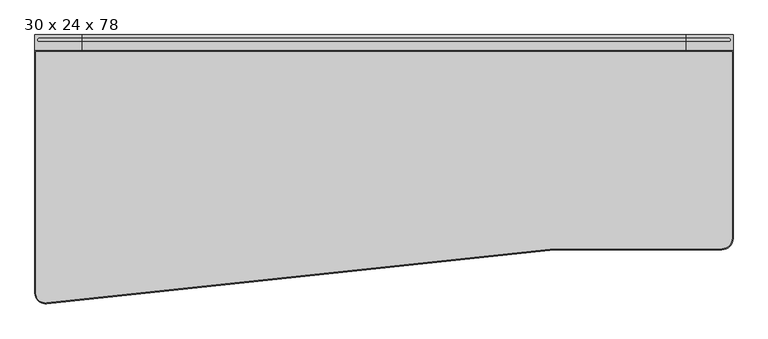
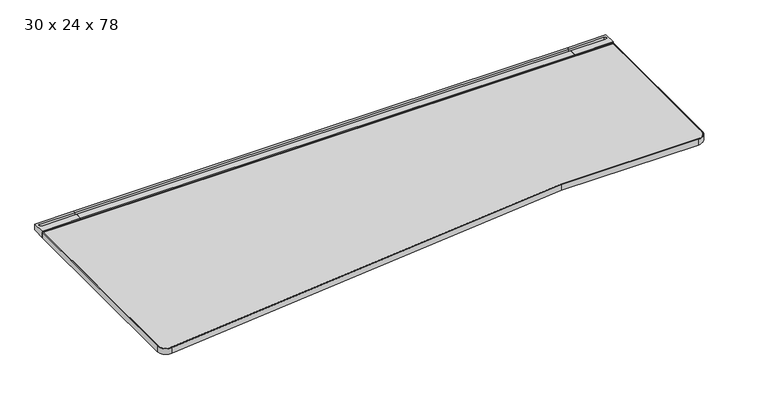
"""IFC4 building model written with IfcOpenShell, lengths in millimetres: furniture geometry, Steelcase - C Scape - Desking - Left Hand Transition : 30 x 24 x 78."""

from ifc_helpers import new_model, si_unit, point, frame, frame_2d, origin, place, context, project, spatial, polyline, circle_curve, trimmed, segment, composite_curve, outline, extrude, faceted_brep, source, transform, mapped, element, save
from ifc_brep_helpers import plane_surface, cylinder_surface, revolved_surface, advanced_brep


def furniture_30_x_24_x_78_94c20a30(model_context):
    return source(origin(), model_context, "Body", "SolidModel", [
        advanced_brep(
        [(134.6072876, -45.3135132, 703.3768), (134.6072876, -4.0331902, 703.3768), (134.6072876, -3.2278472, 705.1038636), (134.6072876, 0.0, 705.1038636), (134.6072876, 0.0, 725.932), (134.6072876, -8.5111084, 725.932), (134.6072876, -8.5111084, 713.486), (134.6072876, -19.3290527, 713.486), (134.6072876, -19.3290527, 725.932), (134.6072876, -42.7750923, 725.932), (134.6072876, -42.7750923, 722.4268341), (134.6072876, -45.3135132, 722.4268341), (1.5875, -45.3135132, 703.3768), (1.5875, -45.3135132, 722.4268341), (1.5875, -42.7750923, 722.4268341), (1.5875, -42.7750923, 725.932), (1.5875, 0.0, 725.932), (1.5875, 0.0, 705.1038636), (1.5875, -3.2278472, 705.1038636), (1.5875, -4.0331902, 703.3768), (13.3495728, -19.3290527, 725.932), (13.3495728, -8.5111084, 725.932), (13.3495728, -8.5111084, 713.486), (13.3495728, -19.3290527, 713.486)],
        [
            (0, 1),
            (1, 2),
            (2, 3),
            (3, 4),
            (4, 5),
            (5, 6),
            (6, 7),
            (7, 8),
            (8, 9),
            (9, 10),
            (10, 11),
            (11, 0),
            (12, 13),
            (13, 14),
            (14, 15),
            (15, 16),
            (16, 17),
            (17, 18),
            (18, 19),
            (19, 12),
            (0, 12),
            (19, 1),
            (18, 2),
            (17, 3),
            (16, 4),
            (15, 9),
            (8, 20),
            (20, 21, circle_curve(frame((13.3495728, -13.9200806, 725.932), z_axis=(0.0, 0.0, -1.0), x_axis=(1.0, 0.0, 0.0)), 5.4089722)),
            (21, 5),
            (14, 10),
            (13, 11),
            (6, 22),
            (22, 23, circle_curve(frame((13.3495728, -13.9200806, 713.486), z_axis=(0.0, 0.0, 1.0), x_axis=(1.0, 0.0, 0.0)), 5.4089722)),
            (23, 7),
            (21, 22),
            (20, 23),
        ],
        [
            plane_surface(frame((134.6072876, -45.3135132, 703.3768), z_axis=(1.0, 0.0, 0.0), x_axis=(0.0, 1.0, 0.0))),
            plane_surface(frame((1.5875, -45.3135132, 703.3768), z_axis=(-1.0, 0.0, 0.0), x_axis=(0.0, -1.0, 0.0))),
            plane_surface(frame((134.6072876, -45.3135132, 703.3768), z_axis=(0.0, 0.0, -1.0), x_axis=(-1.0, 0.0, 0.0))),
            plane_surface(frame((134.6072876, -4.0331902, 703.3768), z_axis=(0.0, 0.9063077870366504, -0.4226182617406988), x_axis=(-1.0, 0.0, 0.0))),
            plane_surface(frame((134.6072876, -3.2278472, 705.1038636), z_axis=(0.0, 0.0, -1.0), x_axis=(-1.0, 0.0, 0.0))),
            plane_surface(frame((134.6072876, 0.0, 705.1038636), z_axis=(0.0, 1.0, 0.0), x_axis=(-1.0, 0.0, 0.0))),
            plane_surface(frame((134.6072876, 0.0, 725.932), z_axis=(0.0, 0.0, 1.0), x_axis=(-1.0, 0.0, 0.0))),
            plane_surface(frame((134.6072876, -42.7750923, 725.932), z_axis=(0.0, -1.0, 0.0), x_axis=(-1.0, 0.0, 0.0))),
            plane_surface(frame((134.6072876, -42.7750923, 722.4268341), z_axis=(0.0, 0.0, 1.0), x_axis=(-1.0, 0.0, 0.0))),
            plane_surface(frame((134.6072876, -45.3135132, 722.4268341), z_axis=(0.0, -1.0, 0.0), x_axis=(-1.0, 0.0, 0.0))),
            plane_surface(frame((13.3495728, -8.5111084, 713.486), z_axis=(0.0, 0.0, 1.0), x_axis=(1.0, 0.0, 0.0))),
            plane_surface(frame((134.6072876, -8.5111084, 731.2180541), z_axis=(0.0, -1.0, 0.0), x_axis=(0.0, 0.0, -1.0))),
            revolved_surface(polyline([(18.758545, -13.9200806, 725.932), (18.758545, -13.9200806, 713.486)]), (13.3495728, -13.9200806, 713.486), (0.0, 0.0, 1.0)),
            plane_surface(frame((13.3495728, -19.3290527, 731.2180541), z_axis=(0.0, 1.0, 0.0), x_axis=(0.0, 0.0, -1.0))),
        ],
        [
            (0, [[1, 2, 3, 4, 5, 6, 7, 8, 9, 10, 11, 12]]),
            (1, [[13, 14, 15, 16, 17, 18, 19, 20]]),
            (2, [[-1, 21, -20, 22]]),
            (3, [[-2, -22, -19, 23]]),
            (4, [[-3, -23, -18, 24]]),
            (5, [[-4, -24, -17, 25]]),
            (6, [[-16, 26, -9, 27, 28, 29, -5, -25]]),
            (7, [[-10, -26, -15, 30]]),
            (8, [[-11, -30, -14, 31]]),
            (9, [[-12, -31, -13, -21]]),
            (10, [[32, 33, 34, -7]]),
            (11, [[-32, -6, -29, 35]]),
            (12, [[-33, -35, -28, 36]]),
            (13, [[-34, -36, -27, -8]]),
        ],
    ),
        faceted_brep([(20.6382632, -565.0752923, 700.7093833), (34.9133728, -565.0752923, 693.4200291), (116.3525879, -565.0752923, 693.4200291), (118.9731301, -565.0752923, 679.3263935), (134.6072876, -565.0752923, 679.3263935), (134.6072876, -565.0752923, 703.3768), (20.6382632, -565.0752923, 703.3768), (20.6382632, -4.0331902, 700.7093833), (20.6382632, -4.0331902, 703.3768), (134.6072876, -4.0331902, 703.3768), (134.6072876, -4.0331902, 629.3866), (128.2588347, -4.0331902, 629.3866), (116.3525879, -4.0331902, 693.4200291), (34.9133728, -4.0331902, 693.4200291), (128.2588347, -364.1172546, 629.3866), (121.1384051, -376.5599397, 667.6812472), (134.6072876, -364.1172546, 629.3866), (134.6072876, -376.5599397, 667.6812472)], [[[0, 1, 2, 3, 4, 5, 6]], [[7, 8, 9, 10, 11, 12, 13]], [[1, 0, 7, 13]], [[2, 1, 13, 12]], [[12, 11, 14, 15, 3, 2]], [[11, 10, 16, 14]], [[10, 9, 5, 4, 17, 16]], [[6, 5, 9, 8]], [[0, 6, 8, 7]], [[15, 17, 4, 3]], [[17, 15, 14, 16]]]),
        extrude(outline(composite_curve([segment(polyline([(-293.5216187, 657.3775839), (-559.0022133, 680.1371551)]), True, "CONTINUOUS"), segment(trimmed(circle_curve(frame_2d((-558.7581271, 682.9843154)), 2.8576039), [point((-559.0022133, 680.1371551))], [point((-561.5383043, 682.3236226))], False, "CARTESIAN"), True, "CONTINUOUS"), segment(polyline([(-561.5383043, 682.3236226), (-566.0887542, 701.4717905), (-557.8334441, 701.4717905), (-557.8334441, 703.3768), (-442.6683806, 703.3768), (-442.6683806, 696.3917953), (-318.2108611, 696.3917953), (-318.2108611, 703.3768), (-293.5216187, 703.3768), (-293.5216187, 657.3775839)]), True, "CONTINUOUS")], self_intersect=False)), frame((954.024, 0.0, 0.0), z_axis=(1.0, 0.0, 0.0), x_axis=(0.0, 1.0, 0.0)), (0.0, 0.0, 1.0), 73.152),
        advanced_brep(
        [(1846.5927124, -45.3135132, 703.3768), (1846.5927124, -45.3135132, 722.4268341), (1846.5927124, -42.7750923, 722.4268341), (1846.5927124, -42.7750923, 725.932), (1846.5927124, -19.3290527, 725.932), (1846.5927124, -19.3290527, 713.486), (1846.5927124, -8.5111084, 713.486), (1846.5927124, -8.5111084, 725.932), (1846.5927124, 0.0, 725.932), (1846.5927124, 0.0, 705.1038636), (1846.5927124, -3.2278472, 705.1038636), (1846.5927124, -4.0331902, 703.3768), (1979.6125, -45.3135132, 703.3768), (1979.6125, -4.0331902, 703.3768), (1979.6125, -3.2278472, 705.1038636), (1979.6125, 0.0, 705.1038636), (1979.6125, 0.0, 725.932), (1979.6125, -42.7750923, 725.932), (1979.6125, -42.7750923, 722.4268341), (1979.6125, -45.3135132, 722.4268341), (1967.8504272, -8.5111084, 725.932), (1967.8504272, -19.3290527, 725.932), (1967.8504272, -19.3290527, 713.486), (1967.8504272, -8.5111084, 713.486)],
        [
            (0, 1),
            (1, 2),
            (2, 3),
            (3, 4),
            (4, 5),
            (5, 6),
            (6, 7),
            (7, 8),
            (8, 9),
            (9, 10),
            (10, 11),
            (11, 0),
            (12, 13),
            (13, 14),
            (14, 15),
            (15, 16),
            (16, 17),
            (17, 18),
            (18, 19),
            (19, 12),
            (11, 13),
            (12, 0),
            (10, 14),
            (9, 15),
            (8, 16),
            (7, 20),
            (20, 21, circle_curve(frame((1967.8504272, -13.9200806, 725.932), z_axis=(0.0, 0.0, -1.0), x_axis=(-1.0, 0.0, 0.0)), 5.4089722)),
            (21, 4),
            (3, 17),
            (2, 18),
            (1, 19),
            (5, 22),
            (22, 23, circle_curve(frame((1967.8504272, -13.9200806, 713.486), z_axis=(0.0, 0.0, 1.0), x_axis=(-1.0, 0.0, 0.0)), 5.4089722)),
            (23, 6),
            (23, 20),
            (22, 21),
        ],
        [
            plane_surface(frame((1846.5927124, -45.3135132, 703.3768), z_axis=(-1.0, 0.0, 0.0), x_axis=(0.0, 1.0, 0.0))),
            plane_surface(frame((1979.6125, -45.3135132, 703.3768), z_axis=(1.0, 0.0, 0.0), x_axis=(0.0, -1.0, 0.0))),
            plane_surface(frame((1846.5927124, -45.3135132, 703.3768), z_axis=(0.0, 0.0, -1.0), x_axis=(1.0, 0.0, 0.0))),
            plane_surface(frame((1846.5927124, -4.0331902, 703.3768), z_axis=(0.0, 0.9063077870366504, -0.4226182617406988), x_axis=(1.0, 0.0, 0.0))),
            plane_surface(frame((1846.5927124, -3.2278472, 705.1038636), z_axis=(0.0, 0.0, -1.0), x_axis=(1.0, 0.0, 0.0))),
            plane_surface(frame((1846.5927124, 0.0, 705.1038636), z_axis=(0.0, 1.0, 0.0), x_axis=(1.0, 0.0, 0.0))),
            plane_surface(frame((1846.5927124, 0.0, 725.932), z_axis=(0.0, 0.0, 1.0), x_axis=(1.0, 0.0, 0.0))),
            plane_surface(frame((1846.5927124, -42.7750923, 725.932), z_axis=(0.0, -1.0, 0.0), x_axis=(1.0, 0.0, 0.0))),
            plane_surface(frame((1846.5927124, -42.7750923, 722.4268341), z_axis=(0.0, 0.0, 1.0), x_axis=(1.0, 0.0, 0.0))),
            plane_surface(frame((1846.5927124, -45.3135132, 722.4268341), z_axis=(0.0, -1.0, 0.0), x_axis=(1.0, 0.0, 0.0))),
            plane_surface(frame((1967.8504272, -8.5111084, 713.486), z_axis=(0.0, 0.0, 1.0), x_axis=(-1.0, 0.0, 0.0))),
            plane_surface(frame((1846.5927124, -8.5111084, 731.2180541), z_axis=(0.0, -1.0, 0.0), x_axis=(0.0, 0.0, -1.0))),
            revolved_surface(polyline([(1962.441455, -13.9200806, 725.932), (1962.441455, -13.9200806, 713.486)]), (1967.8504272, -13.9200806, 713.486), (0.0, 0.0, 1.0)),
            plane_surface(frame((1967.8504272, -19.3290527, 731.2180541), z_axis=(0.0, 1.0, 0.0), x_axis=(0.0, 0.0, -1.0))),
        ],
        [
            (0, [[1, 2, 3, 4, 5, 6, 7, 8, 9, 10, 11, 12]]),
            (1, [[13, 14, 15, 16, 17, 18, 19, 20]]),
            (2, [[21, -13, 22, -12]]),
            (3, [[23, -14, -21, -11]]),
            (4, [[24, -15, -23, -10]]),
            (5, [[25, -16, -24, -9]]),
            (6, [[-25, -8, 26, 27, 28, -4, 29, -17]]),
            (7, [[30, -18, -29, -3]]),
            (8, [[31, -19, -30, -2]]),
            (9, [[-22, -20, -31, -1]]),
            (10, [[-6, 32, 33, 34]]),
            (11, [[35, -26, -7, -34]]),
            (12, [[36, -27, -35, -33]]),
            (13, [[-5, -28, -36, -32]]),
        ],
    ),
        faceted_brep([(1960.5617368, -565.0752923, 700.7093833), (1960.5617368, -565.0752923, 703.3768), (1846.5927124, -565.0752923, 703.3768), (1846.5927124, -565.0752923, 679.3263935), (1862.2268699, -565.0752923, 679.3263935), (1864.8474121, -565.0752923, 693.4200291), (1946.2866272, -565.0752923, 693.4200291), (1960.5617368, -4.0331902, 700.7093833), (1946.2866272, -4.0331902, 693.4200291), (1864.8474121, -4.0331902, 693.4200291), (1852.9411653, -4.0331902, 629.3866), (1846.5927124, -4.0331902, 629.3866), (1846.5927124, -4.0331902, 703.3768), (1960.5617368, -4.0331902, 703.3768), (1860.0615949, -376.5599397, 667.6812472), (1852.9411653, -364.1172546, 629.3866), (1846.5927124, -364.1172546, 629.3866), (1846.5927124, -376.5599397, 667.6812472)], [[[0, 1, 2, 3, 4, 5, 6]], [[7, 8, 9, 10, 11, 12, 13]], [[6, 8, 7, 0]], [[5, 9, 8, 6]], [[9, 5, 4, 14, 15, 10]], [[10, 15, 16, 11]], [[11, 16, 17, 3, 2, 12]], [[1, 13, 12, 2]], [[0, 7, 13, 1]], [[14, 4, 3, 17]], [[17, 16, 15, 14]]]),
        extrude(outline(polyline([(-8.5111084, 725.932), (0.0, 725.932), (0.0, 705.1038636), (-3.2278472, 705.1038636), (-4.0331902, 703.3768), (-45.3135132, 703.3768), (-45.3135132, 722.4268341), (-42.7750923, 722.4268341), (-42.7750923, 725.932), (-19.3290527, 725.932), (-19.3290527, 713.486), (-8.5111084, 713.486), (-8.5111084, 725.932)])), frame((134.6072876, 0.0, 0.0), z_axis=(1.0, 0.0, 0.0), x_axis=(0.0, 1.0, 0.0)), (0.0, 0.0, 1.0), 1711.9854248),
        extrude(outline(polyline([(1846.5927124, -4.0331902), (1846.5927124, -293.5216187), (134.6072876, -293.5216187), (134.6072876, -4.0331902), (1846.5927124, -4.0331902)])), frame((0.0, 0.0, 629.3866), z_axis=(0.0, 0.0, 1.0), x_axis=(1.0, 0.0, 0.0)), (0.0, 0.0, 1.0), 73.9902),
        advanced_brep(
        [(1976.5645, -48.3660689, 723.9), (4.6355, -48.3660689, 723.9), (4.6355, -734.677348, 723.9), (33.9511745, -759.7737122, 723.9), (1473.1997595, -606.5490234, 723.9), (1947.8625, -606.5490234, 723.9), (1976.5615234, -577.85, 723.9), (1976.5645, -48.3660689, 703.3768), (1976.5645, -577.85, 703.3768), (1947.8625, -606.5490234, 703.3768), (1473.1997595, -606.5490234, 703.3768), (33.9511745, -759.7737122, 703.3768), (4.6355, -734.677348, 703.3768), (4.6355, -48.3660689, 703.3768)],
        [
            (0, 1),
            (1, 2),
            (2, 3, circle_curve(frame((30.0355, -734.677348, 723.9), z_axis=(0.0, 0.0, 1.0), x_axis=(-1.0, 0.0, 0.0)), 25.4)),
            (3, 4),
            (4, 5),
            (5, 6, circle_curve(frame((1947.8625, -577.85, 723.9), z_axis=(0.0, 0.0, 1.0), x_axis=(-1.0, 0.0, 0.0)), 28.6990234)),
            (6, 0),
            (7, 8),
            (8, 9, circle_curve(frame((1947.8625, -577.85, 703.3768), z_axis=(0.0, 0.0, -1.0), x_axis=(-1.0, 0.0, 0.0)), 28.6990234)),
            (9, 10),
            (10, 11),
            (11, 12, circle_curve(frame((30.0355, -734.677348, 703.3768), z_axis=(0.0, 0.0, -1.0), x_axis=(-1.0, 0.0, 0.0)), 25.4)),
            (12, 13),
            (13, 7),
            (0, 7),
            (13, 1),
            (12, 2),
            (11, 3),
            (10, 4),
            (9, 5),
            (8, 6),
        ],
        [
            plane_surface(frame((4.6355, -48.3660689, 723.9), z_axis=(0.0, 0.0, 1.0), x_axis=(-1.0, 0.0, 0.0))),
            plane_surface(frame((4.6355, -48.3660689, 703.3768), z_axis=(0.0, 0.0, -1.0), x_axis=(1.0, 0.0, 0.0))),
            plane_surface(frame((1976.5645, -48.3660689, 723.9), z_axis=(0.0, 1.0, 0.0), x_axis=(0.0, 0.0, -1.0))),
            plane_surface(frame((4.6355, -48.3660689, 723.9), z_axis=(-1.0, 0.0, 0.0), x_axis=(0.0, 0.0, -1.0))),
            cylinder_surface(frame((30.0355, -734.677348, 703.3768), z_axis=(0.0, 0.0, 1.0), x_axis=(-1.0, 0.0, 0.0)), 25.4),
            plane_surface(frame((33.9511745, -759.7737122, 723.9), z_axis=(0.10586334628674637, -0.9943806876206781, 0.0), x_axis=(0.0, 0.0, -1.0))),
            plane_surface(frame((1473.1997595, -606.5490234, 723.9), z_axis=(0.0, -1.0, 0.0), x_axis=(0.0, 0.0, -1.0))),
            cylinder_surface(frame((1947.8625, -577.85, 703.3768), z_axis=(0.0, 0.0, 1.0), x_axis=(-1.0, 0.0, 0.0)), 28.6990234),
            plane_surface(frame((1976.5645, -577.85, 723.9), z_axis=(1.0, 0.0, 0.0), x_axis=(0.0, 0.0, -1.0))),
        ],
        [
            (0, [[1, 2, 3, 4, 5, 6, 7]]),
            (1, [[8, 9, 10, 11, 12, 13, 14]]),
            (2, [[-1, 15, -14, 16]]),
            (3, [[-2, -16, -13, 17]]),
            (4, [[-3, -17, -12, 18]]),
            (5, [[-4, -18, -11, 19]]),
            (6, [[-5, -19, -10, 20]]),
            (7, [[-6, -20, -9, 21]]),
            (8, [[-7, -21, -8, -15]]),
        ],
    ),
        advanced_brep(
        [(4.6384766, -48.3660689, 703.3768), (4.6384766, -48.3660689, 723.9), (4.6384766, -733.2875177, 723.9), (4.6384766, -733.2875177, 703.3768), (1.5875, -45.3150923, 723.9), (1.5875, -45.3150923, 703.3768), (1.5875, -733.2875177, 703.3768), (1.5875, -733.2875177, 723.9), (35.2904734, -759.5278717, 703.3768), (35.2904734, -759.5278717, 723.9), (35.7608132, -762.5423763, 723.9), (35.7608132, -762.5423763, 703.3768), (1473.0381461, -606.5490234, 723.9), (1473.0381461, -606.5490234, 703.3768), (1473.2, -609.6, 703.3768), (1979.6125, -45.3150923, 703.3768), (1979.6125, -577.85, 703.3768), (1947.8625, -609.6, 703.3768), (1947.8625, -606.5490234, 703.3768), (1976.5615234, -577.85, 703.3768), (1976.5615234, -48.3660689, 703.3768), (1473.2, -609.6, 723.9), (1947.8625, -609.6, 723.9), (1979.6125, -577.85, 723.9), (1979.6125, -45.3150923, 723.9), (1976.5615234, -48.3660689, 723.9), (1976.5615234, -577.85, 723.9), (1947.8625, -606.5490234, 723.9)],
        [
            (0, 1),
            (1, 2),
            (2, 3),
            (3, 0),
            (4, 5),
            (5, 6),
            (6, 7),
            (7, 4),
            (8, 3, circle_curve(frame((31.1963073, -733.2875177, 703.3768), z_axis=(0.0, 0.0, -1.0), x_axis=(-1.0, 0.0, 0.0)), 26.5578307)),
            (2, 9, circle_curve(frame((31.1963073, -733.2875177, 723.9), z_axis=(0.0, 0.0, 1.0), x_axis=(-1.0, 0.0, 0.0)), 26.5578307)),
            (9, 8),
            (10, 7, circle_curve(frame((31.1963073, -733.2875177, 723.9), z_axis=(0.0, 0.0, -1.0), x_axis=(-1.0, 0.0, 0.0)), 29.6088073)),
            (6, 11, circle_curve(frame((31.1963073, -733.2875177, 703.3768), z_axis=(0.0, 0.0, 1.0), x_axis=(-1.0, 0.0, 0.0)), 29.6088073)),
            (11, 10),
            (9, 12),
            (12, 13),
            (13, 8),
            (14, 11),
            (5, 15),
            (15, 16),
            (16, 17, circle_curve(frame((1947.8625, -577.85, 703.3768), z_axis=(0.0, 0.0, -1.0), x_axis=(0.0, -1.0, 0.0)), 31.75)),
            (17, 14),
            (13, 18),
            (18, 19, circle_curve(frame((1947.8625, -577.85, 703.3768), z_axis=(0.0, 0.0, 1.0), x_axis=(0.0, -1.0, 0.0)), 28.6990234)),
            (19, 20),
            (20, 0),
            (14, 21),
            (21, 10),
            (21, 22),
            (22, 23, circle_curve(frame((1947.8625, -577.85, 723.9), z_axis=(0.0, 0.0, 1.0), x_axis=(0.0, -1.0, 0.0)), 31.75)),
            (23, 24),
            (24, 4),
            (1, 25),
            (25, 26),
            (26, 27, circle_curve(frame((1947.8625, -577.85, 723.9), z_axis=(0.0, 0.0, -1.0), x_axis=(0.0, -1.0, 0.0)), 28.6990234)),
            (27, 12),
            (27, 18),
            (17, 22),
            (26, 19),
            (16, 23),
            (25, 20),
            (15, 24),
        ],
        [
            plane_surface(frame((4.6384766, -48.3660689, 723.9), z_axis=(1.0, 0.0, 0.0), x_axis=(0.0, -1.0, 0.0))),
            plane_surface(frame((1.5875, -45.3150923, 703.3768), z_axis=(-1.0, 0.0, 0.0), x_axis=(0.0, -1.0, 0.0))),
            revolved_surface(polyline([(4.638476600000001, -733.2875177, 723.9), (4.638476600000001, -733.2875177, 703.3768)]), (31.1963073, -733.2875177, 0.0), (0.0, 0.0, 1.0)),
            cylinder_surface(frame((31.1963073, -733.2875177, 0.0), z_axis=(0.0, 0.0, 1.0), x_axis=(-1.0, 0.0, 0.0)), 29.6088073),
            plane_surface(frame((35.2899134, -759.524282, 723.9), z_axis=(-0.10580200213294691, 0.9943872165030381, 0.0), x_axis=(0.9943872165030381, 0.10580200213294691, 0.0))),
            plane_surface(frame((35.2899134, -759.524282, 703.3768), z_axis=(0.0, 0.0, -1.0), x_axis=(0.9943872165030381, 0.10580200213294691, 0.0))),
            plane_surface(frame((35.7608132, -762.5423763, 703.3768), z_axis=(0.10580200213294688, -0.9943872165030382, 0.0), x_axis=(0.9943872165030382, 0.10580200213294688, 0.0))),
            plane_surface(frame((35.7608132, -762.5423763, 723.9), z_axis=(0.0, 0.0, 1.0000000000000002), x_axis=(0.9943872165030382, 0.10580200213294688, 0.0))),
            plane_surface(frame((1473.0381461, -606.5490234, 723.9), z_axis=(0.0, 1.0, 0.0), x_axis=(1.0, 0.0, 0.0))),
            plane_surface(frame((1473.2, -609.6, 703.3768), z_axis=(0.0, -1.0, 0.0), x_axis=(1.0, 0.0, 0.0))),
            revolved_surface(polyline([(1947.8625, -606.5490234, 723.9), (1947.8625, -606.5490234, 703.3768)]), (1947.8625, -577.85, 0.0), (0.0, 0.0, 1.0)),
            cylinder_surface(frame((1947.8625, -577.85, 0.0), z_axis=(0.0, 0.0, 1.0), x_axis=(0.0, -1.0, 0.0)), 31.75),
            plane_surface(frame((1976.5615234, -577.85, 723.9), z_axis=(-1.0, 0.0, 0.0), x_axis=(0.0, 1.0, 0.0))),
            plane_surface(frame((1979.6125, -577.85, 703.3768), z_axis=(1.0, 0.0, 0.0), x_axis=(0.0, 1.0, 0.0))),
            plane_surface(frame((1976.5615234, -48.3660689, 723.9), z_axis=(0.0, -1.0, 0.0), x_axis=(-1.0, 0.0, 0.0))),
            plane_surface(frame((1979.6125, -45.3150923, 703.3768), z_axis=(0.0, 1.0, 0.0), x_axis=(-1.0, 0.0, 0.0))),
        ],
        [
            (0, [[1, 2, 3, 4]]),
            (1, [[5, 6, 7, 8]]),
            (2, [[9, -3, 10, 11]]),
            (3, [[12, -7, 13, 14]]),
            (4, [[-11, 15, 16, 17]]),
            (5, [[18, -13, -6, 19, 20, 21, 22], [-4, -9, -17, 23, 24, 25, 26]]),
            (6, [[-14, -18, 27, 28]]),
            (7, [[-8, -12, -28, 29, 30, 31, 32], [-15, -10, -2, 33, 34, 35, 36]]),
            (8, [[-16, -36, 37, -23]]),
            (9, [[-27, -22, 38, -29]]),
            (10, [[-24, -37, -35, 39]]),
            (11, [[-30, -38, -21, 40]]),
            (12, [[-39, -34, 41, -25]]),
            (13, [[-40, -20, 42, -31]]),
            (14, [[-41, -33, -1, -26]]),
            (15, [[-42, -19, -5, -32]]),
        ],
    ),
    ])


if __name__ == "__main__":
    model = new_model("IFC4")
    model_context = context("Model", 3, world=origin())
    ifc_project = project(units=[si_unit("LENGTHUNIT", "METRE", prefix="MILLI")], contexts=[model_context])
    site = spatial("IfcSite", under=ifc_project)
    building = spatial("IfcBuilding", under=site)
    placement = place(None, origin())
    furniture_30_x_24_x_78_shape = furniture_30_x_24_x_78_94c20a30(model_context)
    element("IfcFurniture", 1, ObjectType="Steelcase - C Scape - Desking - Left Hand Transition : 30 x 24 x 78", at=placement, inside=building, context=model_context, shape_type="MappedRepresentation", body=[
        mapped(furniture_30_x_24_x_78_shape, transform((0.0, 0.0, 0.0), x_axis=(1.0, 0.0, 0.0), y_axis=(0.0, 1.0, 0.0), z_axis=(0.0, 0.0, 1.0))),
    ])
    save(model, "model.ifc")
